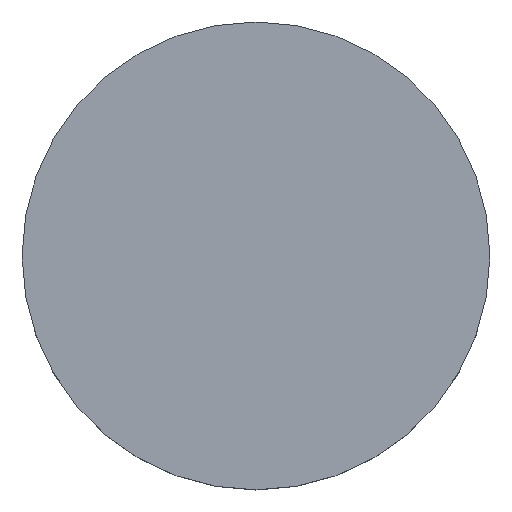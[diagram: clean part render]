
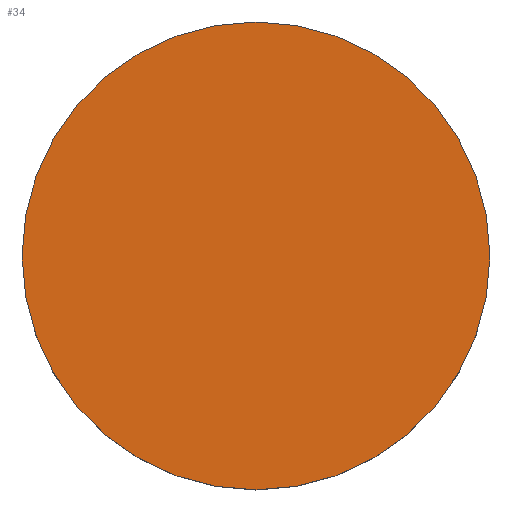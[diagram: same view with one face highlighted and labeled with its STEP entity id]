
A CAD part, top view. The second image highlights one B-rep face of the part: STEP entity #34.
In plain terms, the highlighted planar face has unit normal (0, 0, 1).
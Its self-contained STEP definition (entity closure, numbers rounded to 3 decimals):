
#6 = AXIS2_PLACEMENT_3D ( 'NONE', #108, #37, #13 ) ;
#12 = PLANE ( 'NONE',  #32 ) ;
#13 = DIRECTION ( 'NONE',  ( 1., 0., 0. ) ) ;
#15 = ORIENTED_EDGE ( 'NONE', *, *, #51, .T. ) ;
#16 = EDGE_CURVE ( 'NONE', #77, #53, #65, .T. ) ;
#17 = CARTESIAN_POINT ( 'NONE',  ( 5.3, 0., 1.9 ) ) ;
#20 = AXIS2_PLACEMENT_3D ( 'NONE', #69, #118, #66 ) ;
#32 = AXIS2_PLACEMENT_3D ( 'NONE', #132, #71, #47 ) ;
#34 = ADVANCED_FACE ( 'NONE', ( #131 ), #12, .T. ) ;
#37 = DIRECTION ( 'NONE',  ( 0., 0., 1. ) ) ;
#43 = ORIENTED_EDGE ( 'NONE', *, *, #16, .T. ) ;
#47 = DIRECTION ( 'NONE',  ( 1., 0., 0. ) ) ;
#51 = EDGE_CURVE ( 'NONE', #53, #77, #75, .T. ) ;
#53 = VERTEX_POINT ( 'NONE', #17 ) ;
#65 = CIRCLE ( 'NONE', #6, 5.3 ) ;
#66 = DIRECTION ( 'NONE',  ( 1., 0., 0. ) ) ;
#69 = CARTESIAN_POINT ( 'NONE',  ( 0., 0., 1.9 ) ) ;
#71 = DIRECTION ( 'NONE',  ( 0., 0., 1. ) ) ;
#75 = CIRCLE ( 'NONE', #20, 5.3 ) ;
#77 = VERTEX_POINT ( 'NONE', #126 ) ;
#108 = CARTESIAN_POINT ( 'NONE',  ( 0., 0., 1.9 ) ) ;
#114 = EDGE_LOOP ( 'NONE', ( #43, #15 ) ) ;
#118 = DIRECTION ( 'NONE',  ( 0., 0., 1. ) ) ;
#126 = CARTESIAN_POINT ( 'NONE',  ( -5.3, 0., 1.9 ) ) ;
#131 = FACE_OUTER_BOUND ( 'NONE', #114, .T. ) ;
#132 = CARTESIAN_POINT ( 'NONE',  ( 0., 0., 1.9 ) ) ;
